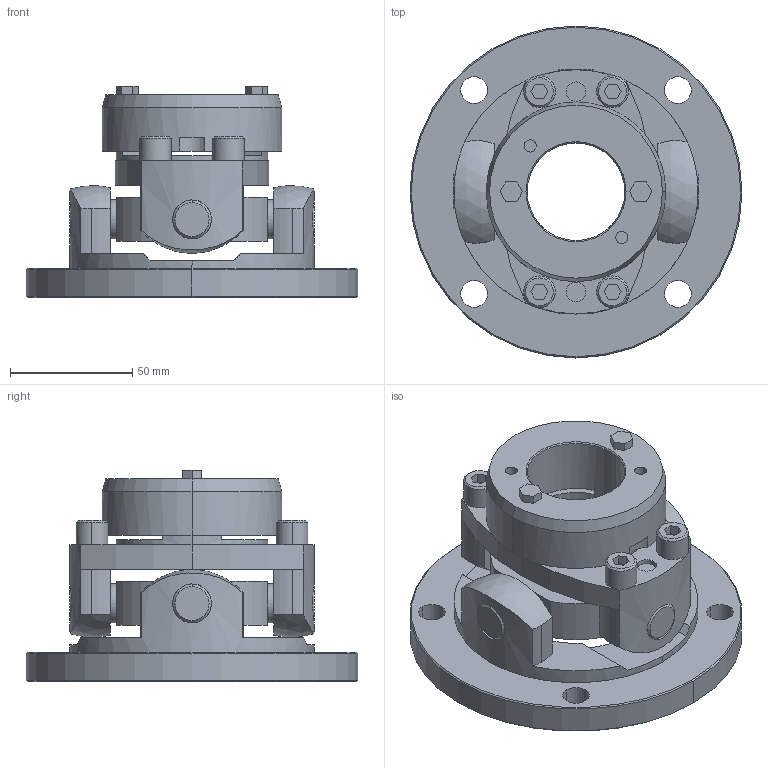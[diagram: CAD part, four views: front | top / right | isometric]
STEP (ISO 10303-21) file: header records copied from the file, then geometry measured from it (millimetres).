
FILE_DESCRIPTION((''),'2;1');
FILE_NAME('UCNF-100T7-40.stp','2011-09-17T16:49:00',(''),(''),'AutoCAD STEP 2000i','AutoCAD 2000i',', , ');
FILE_SCHEMA(('CONFIG_CONTROL_DESIGN'));
Length unit declared in the file: millimetre
Products named in the file (10): UCNF-100T7-38; 忣兜1; UCN100T7-T038; UCN100T7-T035; UCN100T7-T030; UCN100T7-T025; UCNF-10002; UCN100T7-T022-1; UCN100T7-T022; UCN100-SEN
Assembly tree (9 placements, depth 2):
  UCNF-100T7-38
    忣兜1
    UCN100T7-T038
    UCN100T7-T035
    UCN100T7-T030
    UCN100T7-T025
    UCNF-10002
    UCN100T7-T022-1
    UCN100T7-T022
    UCN100-SEN
Bounding box: 136 x 136 x 86.5 mm (x, y, z)
Volume: 375175.1 mm3; surface area: 85867.1 mm2
Topology: 1 solids, 1 shells, 272 faces, 682 edges, 444 vertices
Faces by surface type: plane 124, cylinder 106, cone 38, sphere 4
Entity records: 8851 total; most frequent: CARTESIAN_POINT 1812, DIRECTION 1536, ORIENTED_EDGE 1364, EDGE_CURVE 682, AXIS2_PLACEMENT_3D 588, VERTEX_POINT 444, VECTOR 360, LINE 360
